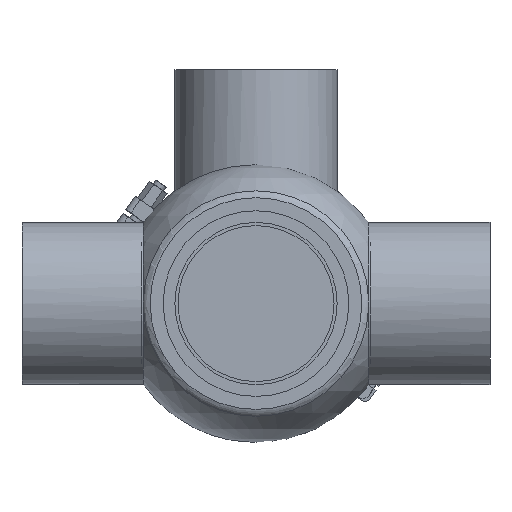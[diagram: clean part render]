
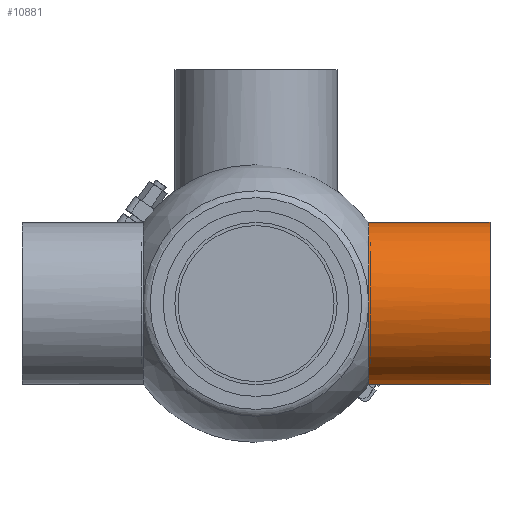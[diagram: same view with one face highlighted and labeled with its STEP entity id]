
A CAD part, front view. The second image highlights one B-rep face of the part: STEP entity #10881.
In plain terms, the highlighted cylindrical face has radius 52 mm (diameter 104 mm), a full revolution.
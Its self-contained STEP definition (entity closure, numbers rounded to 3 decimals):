
#2125 = EDGE_CURVE ( 'NONE', #40977, #17558, #10618, .T. ) ;
#4192 = DIRECTION ( 'NONE',  ( 1., 0., 0. ) ) ;
#4355 = CARTESIAN_POINT ( 'NONE',  ( 72.25, 52., -0.587 ) ) ;
#4923 = AXIS2_PLACEMENT_3D ( 'NONE', #22531, #16683, #49953 ) ;
#5449 = ORIENTED_EDGE ( 'NONE', *, *, #2125, .T. ) ;
#5589 = CARTESIAN_POINT ( 'NONE',  ( 72.25, 52., 0.584 ) ) ;
#6166 = CIRCLE ( 'NONE', #42862, 52. ) ;
#6522 = CARTESIAN_POINT ( 'NONE',  ( 72.229, 0., 0. ) ) ;
#7876 = CIRCLE ( 'NONE', #4923, 52. ) ;
#8318 = EDGE_CURVE ( 'NONE', #14916, #40977, #38506, .T. ) ;
#9231 = CARTESIAN_POINT ( 'NONE',  ( 72.229, -51.947, -2.34 ) ) ;
#9552 = CARTESIAN_POINT ( 'NONE',  ( 72.229, -52.017, 0.786 ) ) ;
#10190 = B_SPLINE_CURVE_WITH_KNOTS ( 'NONE', 3,
 ( #57168, #46871, #4355, #5589, #61185, #47198 ),
 .UNSPECIFIED., .F., .F.,
 ( 4, 2, 4 ),
 ( 0.252, 0.254, 0.255 ),
 .UNSPECIFIED. ) ;
#10618 = B_SPLINE_CURVE_WITH_KNOTS ( 'NONE', 3,
 ( #56449, #9552, #19428, #9231 ),
 .UNSPECIFIED., .F., .F.,
 ( 4, 4 ),
 ( 0.022, 0.026 ),
 .UNSPECIFIED. ) ;
#10881 = ADVANCED_FACE ( 'NONE', ( #36934, #46275 ), #37562, .T. ) ;
#11428 = VERTEX_POINT ( 'NONE', #34127 ) ;
#11613 = CARTESIAN_POINT ( 'NONE',  ( 72.229, 51.971, -1.75 ) ) ;
#11734 = AXIS2_PLACEMENT_3D ( 'NONE', #21498, #4192, #32736 ) ;
#14708 = EDGE_CURVE ( 'NONE', #17558, #43390, #6166, .T. ) ;
#14916 = VERTEX_POINT ( 'NONE', #22572 ) ;
#16683 = DIRECTION ( 'NONE',  ( -1., 0., 0. ) ) ;
#17558 = VERTEX_POINT ( 'NONE', #53191 ) ;
#19428 = CARTESIAN_POINT ( 'NONE',  ( 72.229, -52.018, -0.773 ) ) ;
#21498 = CARTESIAN_POINT ( 'NONE',  ( 72.229, 0., 0. ) ) ;
#22531 = CARTESIAN_POINT ( 'NONE',  ( 150., 0., 0. ) ) ;
#22572 = CARTESIAN_POINT ( 'NONE',  ( 72.229, 51.971, 1.75 ) ) ;
#26140 = ORIENTED_EDGE ( 'NONE', *, *, #14708, .T. ) ;
#29810 = DIRECTION ( 'NONE',  ( 0., 0., 1. ) ) ;
#32736 = DIRECTION ( 'NONE',  ( 0., 0., 1. ) ) ;
#32916 = DIRECTION ( 'NONE',  ( -1., 0., 0. ) ) ;
#33266 = ORIENTED_EDGE ( 'NONE', *, *, #46833, .T. ) ;
#34127 = CARTESIAN_POINT ( 'NONE',  ( 150., 0., 52. ) ) ;
#34448 = AXIS2_PLACEMENT_3D ( 'NONE', #56232, #32916, #46897 ) ;
#36934 = FACE_OUTER_BOUND ( 'NONE', #52010, .T. ) ;
#36936 = EDGE_LOOP ( 'NONE', ( #48559 ) ) ;
#37562 = CYLINDRICAL_SURFACE ( 'NONE', #34448, 52. ) ;
#38506 = CIRCLE ( 'NONE', #11734, 52. ) ;
#40625 = CARTESIAN_POINT ( 'NONE',  ( 72.229, -51.947, 2.34 ) ) ;
#40977 = VERTEX_POINT ( 'NONE', #40625 ) ;
#42862 = AXIS2_PLACEMENT_3D ( 'NONE', #6522, #43489, #29810 ) ;
#43390 = VERTEX_POINT ( 'NONE', #11613 ) ;
#43489 = DIRECTION ( 'NONE',  ( 1., 0., 0. ) ) ;
#46275 = FACE_OUTER_BOUND ( 'NONE', #36936, .T. ) ;
#46833 = EDGE_CURVE ( 'NONE', #43390, #14916, #10190, .T. ) ;
#46871 = CARTESIAN_POINT ( 'NONE',  ( 72.243, 51.99, -1.17 ) ) ;
#46897 = DIRECTION ( 'NONE',  ( 0., 0., 1. ) ) ;
#47159 = EDGE_CURVE ( 'NONE', #11428, #11428, #7876, .T. ) ;
#47198 = CARTESIAN_POINT ( 'NONE',  ( 72.229, 51.971, 1.75 ) ) ;
#48559 = ORIENTED_EDGE ( 'NONE', *, *, #47159, .T. ) ;
#49953 = DIRECTION ( 'NONE',  ( 0., 0., 1. ) ) ;
#52010 = EDGE_LOOP ( 'NONE', ( #53755, #5449, #26140, #33266 ) ) ;
#53191 = CARTESIAN_POINT ( 'NONE',  ( 72.229, -51.947, -2.34 ) ) ;
#53755 = ORIENTED_EDGE ( 'NONE', *, *, #8318, .T. ) ;
#56232 = CARTESIAN_POINT ( 'NONE',  ( 0., 0., 0. ) ) ;
#56449 = CARTESIAN_POINT ( 'NONE',  ( 72.229, -51.947, 2.34 ) ) ;
#57168 = CARTESIAN_POINT ( 'NONE',  ( 72.229, 51.971, -1.75 ) ) ;
#61185 = CARTESIAN_POINT ( 'NONE',  ( 72.243, 51.99, 1.168 ) ) ;
